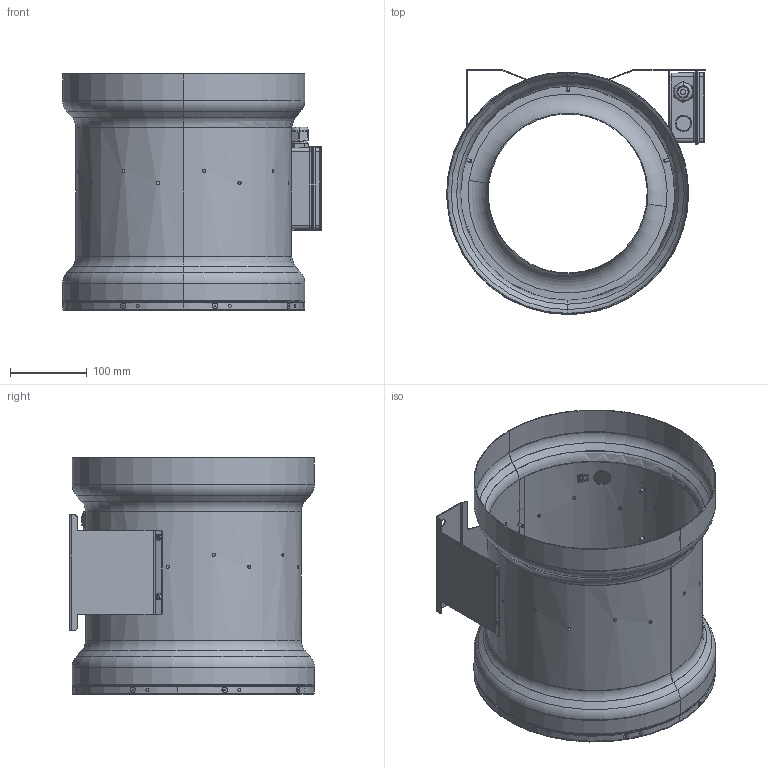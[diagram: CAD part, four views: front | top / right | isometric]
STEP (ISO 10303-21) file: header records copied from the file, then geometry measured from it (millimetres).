
FILE_DESCRIPTION (( 'STEP AP203' ), '1' );
FILE_NAME ('117010-03_EL315E203.STEP', '2013-11-18T15:00:19', ( '' ), ( '' ), 'SwSTEP 2.0', 'SolidWorks 2012', '' );
FILE_SCHEMA (( 'CONFIG_CONTROL_DESIGN' ));
Length unit declared in the file: millimetre
Products named in the file (1): 117010-03_EL315E203
Bounding box: 336.66 x 318.5 x 307.6 mm (x, y, z)
Surface area: 806994.3 mm2 (no closed solid volume)
Topology: 0 solids, 34 shells, 483 faces, 1490 edges, 1009 vertices
Faces by surface type: cylinder 186, plane 165, bspline 49, cone 43, torus 40
Entity records: 25372 total; most frequent: CARTESIAN_POINT 12569, DIRECTION 2527, ORIENTED_EDGE 2429, EDGE_CURVE 1490, VERTEX_POINT 1009, AXIS2_PLACEMENT_3D 985, EDGE_LOOP 622, VECTOR 557
